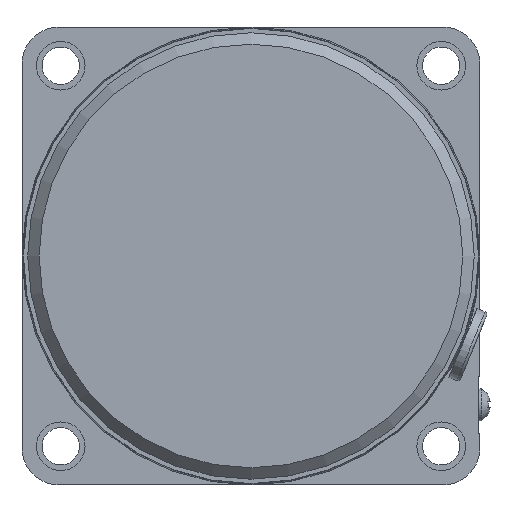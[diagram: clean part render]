
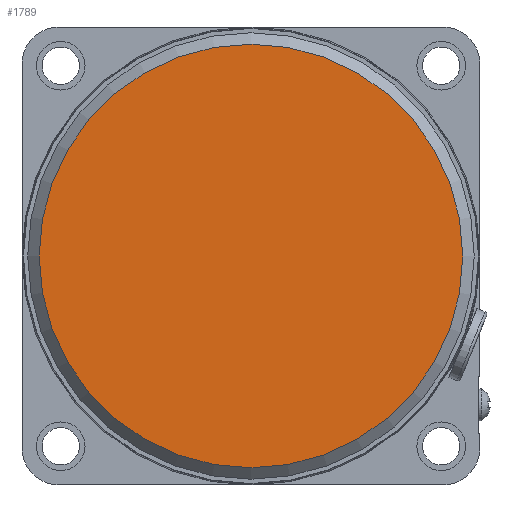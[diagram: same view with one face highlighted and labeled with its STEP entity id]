
A CAD part, left-side view. The second image highlights one B-rep face of the part: STEP entity #1789.
In plain terms, the highlighted planar face has unit normal (-1, 0, 0).
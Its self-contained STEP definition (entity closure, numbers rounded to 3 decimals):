
#134=FACE_OUTER_BOUND('',#243,.T.);
#243=EDGE_LOOP('',(#1212));
#655=CIRCLE('',#1918,37.);
#751=VERTEX_POINT('',#2731);
#935=EDGE_CURVE('',#751,#751,#655,.T.);
#1212=ORIENTED_EDGE('',*,*,#935,.F.);
#1611=PLANE('',#1917);
#1789=ADVANCED_FACE('',(#134),#1611,.T.);
#1917=AXIS2_PLACEMENT_3D('',#2730,#2166,#2167);
#1918=AXIS2_PLACEMENT_3D('',#2732,#2168,#2169);
#2166=DIRECTION('center_axis',(-1.,0.,0.));
#2167=DIRECTION('ref_axis',(0.,0.,1.));
#2168=DIRECTION('center_axis',(1.,0.,0.));
#2169=DIRECTION('ref_axis',(0.,1.,0.));
#2730=CARTESIAN_POINT('Origin',(0.,18.5,0.));
#2731=CARTESIAN_POINT('',(0.,37.,0.));
#2732=CARTESIAN_POINT('Origin',(0.,0.,
0.));
